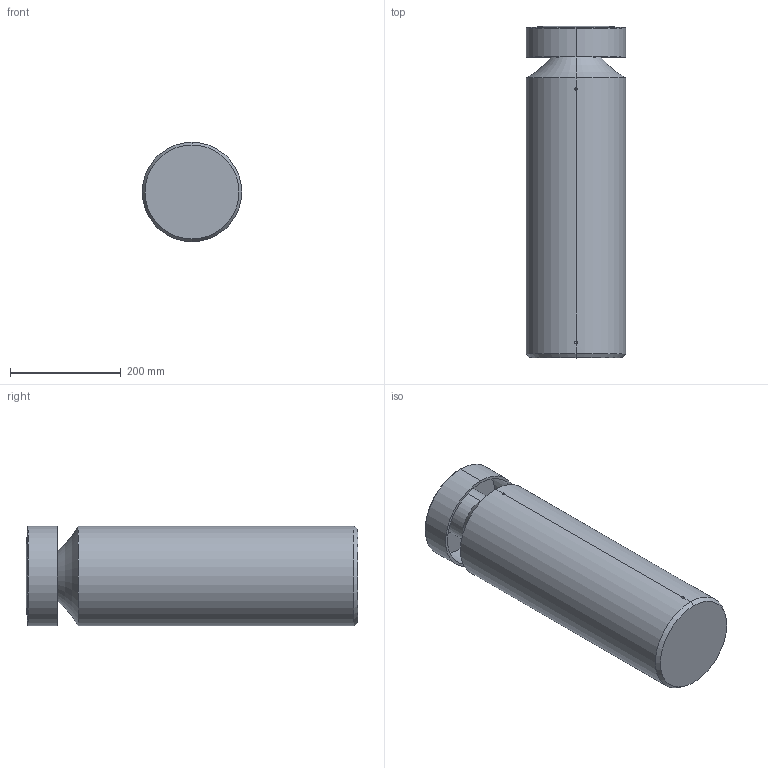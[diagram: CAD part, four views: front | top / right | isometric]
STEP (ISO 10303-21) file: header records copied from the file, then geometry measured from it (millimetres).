
FILE_DESCRIPTION (( 'STEP AP203' ), '1' );
FILE_NAME ('BOLLARD 600.STEP', '2023-04-17T11:25:41', ( '' ), ( '' ), 'SwSTEP 2.0', 'SolidWorks 2017', '' );
FILE_SCHEMA (( 'CONFIG_CONTROL_DESIGN' ));
Length unit declared in the file: millimetre
Products named in the file (1): BOLLARD 600
Bounding box: 180 x 600.48 x 180 mm (x, y, z)
Volume: 13964940.1 mm3; surface area: 449915.6 mm2
Topology: 1 solids, 1 shells, 35 faces, 90 edges, 49 vertices
Faces by surface type: cylinder 16, cone 12, torus 4, plane 3
Entity records: 1283 total; most frequent: CARTESIAN_POINT 421, DIRECTION 168, ORIENTED_EDGE 160, EDGE_CURVE 80, AXIS2_PLACEMENT_3D 68, VERTEX_POINT 49, EDGE_LOOP 37, FACE_OUTER_BOUND 35
